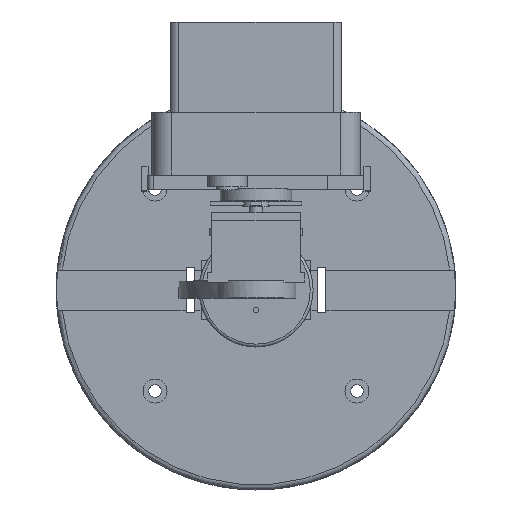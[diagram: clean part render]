
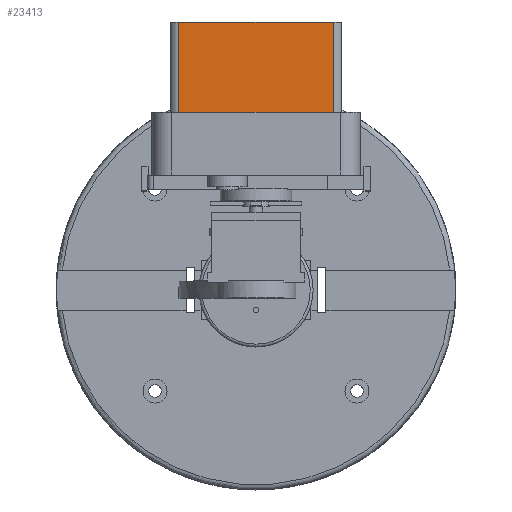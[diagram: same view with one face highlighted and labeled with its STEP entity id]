
A CAD part, top view. The second image highlights one B-rep face of the part: STEP entity #23413.
In plain terms, the highlighted planar face has unit normal (0, 0, 1).
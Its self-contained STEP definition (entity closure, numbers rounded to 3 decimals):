
#22783 = PLANE('',#22784);
#22784 = AXIS2_PLACEMENT_3D('',#22785,#22786,#22787);
#22785 = CARTESIAN_POINT('',(-30.,49.,90.));
#22786 = DIRECTION('',(0.,1.,0.));
#22787 = DIRECTION('',(0.,0.,1.));
#22839 = PLANE('',#22840);
#22840 = AXIS2_PLACEMENT_3D('',#22841,#22842,#22843);
#22841 = CARTESIAN_POINT('',(-30.,93.64,90.));
#22842 = DIRECTION('',(0.,1.,0.));
#22843 = DIRECTION('',(0.,0.,1.));
#22865 = CYLINDRICAL_SURFACE('',#22866,3.);
#22866 = AXIS2_PLACEMENT_3D('',#22867,#22868,#22869);
#22867 = CARTESIAN_POINT('',(-27.,49.,99.));
#22868 = DIRECTION('',(0.,1.,0.));
#22869 = DIRECTION('',(-1.,0.,0.));
#22938 = VERTEX_POINT('',#22939);
#22939 = CARTESIAN_POINT('',(-27.,49.,102.));
#22961 = EDGE_CURVE('',#22938,#22962,#22964,.T.);
#22962 = VERTEX_POINT('',#22963);
#22963 = CARTESIAN_POINT('',(27.,49.,102.));
#22964 = SURFACE_CURVE('',#22965,(#22969,#22976),.PCURVE_S1.);
#22965 = LINE('',#22966,#22967);
#22966 = CARTESIAN_POINT('',(-30.,49.,102.));
#22967 = VECTOR('',#22968,1.);
#22968 = DIRECTION('',(1.,0.,0.));
#22969 = PCURVE('',#22783,#22970);
#22970 = DEFINITIONAL_REPRESENTATION('',(#22971),#22975);
#22971 = LINE('',#22972,#22973);
#22972 = CARTESIAN_POINT('',(12.,0.));
#22973 = VECTOR('',#22974,1.);
#22974 = DIRECTION('',(0.,1.));
#22975 = ( GEOMETRIC_REPRESENTATION_CONTEXT(2) 
PARAMETRIC_REPRESENTATION_CONTEXT() REPRESENTATION_CONTEXT('2D SPACE',''
  ) );
#22976 = PCURVE('',#22977,#22982);
#22977 = PLANE('',#22978);
#22978 = AXIS2_PLACEMENT_3D('',#22979,#22980,#22981);
#22979 = CARTESIAN_POINT('',(-30.,49.,102.));
#22980 = DIRECTION('',(0.,0.,1.));
#22981 = DIRECTION('',(1.,0.,0.));
#22982 = DEFINITIONAL_REPRESENTATION('',(#22983),#22987);
#22983 = LINE('',#22984,#22985);
#22984 = CARTESIAN_POINT('',(0.,0.));
#22985 = VECTOR('',#22986,1.);
#22986 = DIRECTION('',(1.,0.));
#22987 = ( GEOMETRIC_REPRESENTATION_CONTEXT(2) 
PARAMETRIC_REPRESENTATION_CONTEXT() REPRESENTATION_CONTEXT('2D SPACE',''
  ) );
#23010 = CYLINDRICAL_SURFACE('',#23011,3.);
#23011 = AXIS2_PLACEMENT_3D('',#23012,#23013,#23014);
#23012 = CARTESIAN_POINT('',(27.,49.,99.));
#23013 = DIRECTION('',(0.,1.,0.));
#23014 = DIRECTION('',(1.,0.,-0.));
#23135 = EDGE_CURVE('',#22938,#23136,#23138,.T.);
#23136 = VERTEX_POINT('',#23137);
#23137 = CARTESIAN_POINT('',(-27.,93.64,102.));
#23138 = SURFACE_CURVE('',#23139,(#23143,#23150),.PCURVE_S1.);
#23139 = LINE('',#23140,#23141);
#23140 = CARTESIAN_POINT('',(-27.,49.,102.));
#23141 = VECTOR('',#23142,1.);
#23142 = DIRECTION('',(0.,1.,0.));
#23143 = PCURVE('',#22865,#23144);
#23144 = DEFINITIONAL_REPRESENTATION('',(#23145),#23149);
#23145 = LINE('',#23146,#23147);
#23146 = CARTESIAN_POINT('',(1.571,0.));
#23147 = VECTOR('',#23148,1.);
#23148 = DIRECTION('',(0.,1.));
#23149 = ( GEOMETRIC_REPRESENTATION_CONTEXT(2) 
PARAMETRIC_REPRESENTATION_CONTEXT() REPRESENTATION_CONTEXT('2D SPACE',''
  ) );
#23150 = PCURVE('',#22977,#23151);
#23151 = DEFINITIONAL_REPRESENTATION('',(#23152),#23156);
#23152 = LINE('',#23153,#23154);
#23153 = CARTESIAN_POINT('',(3.,0.));
#23154 = VECTOR('',#23155,1.);
#23155 = DIRECTION('',(0.,1.));
#23156 = ( GEOMETRIC_REPRESENTATION_CONTEXT(2) 
PARAMETRIC_REPRESENTATION_CONTEXT() REPRESENTATION_CONTEXT('2D SPACE',''
  ) );
#23210 = EDGE_CURVE('',#23136,#23211,#23213,.T.);
#23211 = VERTEX_POINT('',#23212);
#23212 = CARTESIAN_POINT('',(27.,93.64,102.));
#23213 = SURFACE_CURVE('',#23214,(#23218,#23225),.PCURVE_S1.);
#23214 = LINE('',#23215,#23216);
#23215 = CARTESIAN_POINT('',(-30.,93.64,102.));
#23216 = VECTOR('',#23217,1.);
#23217 = DIRECTION('',(1.,0.,0.));
#23218 = PCURVE('',#22839,#23219);
#23219 = DEFINITIONAL_REPRESENTATION('',(#23220),#23224);
#23220 = LINE('',#23221,#23222);
#23221 = CARTESIAN_POINT('',(12.,0.));
#23222 = VECTOR('',#23223,1.);
#23223 = DIRECTION('',(0.,1.));
#23224 = ( GEOMETRIC_REPRESENTATION_CONTEXT(2) 
PARAMETRIC_REPRESENTATION_CONTEXT() REPRESENTATION_CONTEXT('2D SPACE',''
  ) );
#23225 = PCURVE('',#22977,#23226);
#23226 = DEFINITIONAL_REPRESENTATION('',(#23227),#23231);
#23227 = LINE('',#23228,#23229);
#23228 = CARTESIAN_POINT('',(0.,44.64));
#23229 = VECTOR('',#23230,1.);
#23230 = DIRECTION('',(1.,0.));
#23231 = ( GEOMETRIC_REPRESENTATION_CONTEXT(2) 
PARAMETRIC_REPRESENTATION_CONTEXT() REPRESENTATION_CONTEXT('2D SPACE',''
  ) );
#23391 = EDGE_CURVE('',#22962,#23211,#23392,.T.);
#23392 = SURFACE_CURVE('',#23393,(#23397,#23404),.PCURVE_S1.);
#23393 = LINE('',#23394,#23395);
#23394 = CARTESIAN_POINT('',(27.,49.,102.));
#23395 = VECTOR('',#23396,1.);
#23396 = DIRECTION('',(0.,1.,0.));
#23397 = PCURVE('',#23010,#23398);
#23398 = DEFINITIONAL_REPRESENTATION('',(#23399),#23403);
#23399 = LINE('',#23400,#23401);
#23400 = CARTESIAN_POINT('',(-1.571,0.));
#23401 = VECTOR('',#23402,1.);
#23402 = DIRECTION('',(-0.,1.));
#23403 = ( GEOMETRIC_REPRESENTATION_CONTEXT(2) 
PARAMETRIC_REPRESENTATION_CONTEXT() REPRESENTATION_CONTEXT('2D SPACE',''
  ) );
#23404 = PCURVE('',#22977,#23405);
#23405 = DEFINITIONAL_REPRESENTATION('',(#23406),#23410);
#23406 = LINE('',#23407,#23408);
#23407 = CARTESIAN_POINT('',(57.,0.));
#23408 = VECTOR('',#23409,1.);
#23409 = DIRECTION('',(0.,1.));
#23410 = ( GEOMETRIC_REPRESENTATION_CONTEXT(2) 
PARAMETRIC_REPRESENTATION_CONTEXT() REPRESENTATION_CONTEXT('2D SPACE',''
  ) );
#23413 = ADVANCED_FACE('',(#23414),#22977,.T.);
#23414 = FACE_BOUND('',#23415,.T.);
#23415 = EDGE_LOOP('',(#23416,#23417,#23418,#23419));
#23416 = ORIENTED_EDGE('',*,*,#23210,.F.);
#23417 = ORIENTED_EDGE('',*,*,#23135,.F.);
#23418 = ORIENTED_EDGE('',*,*,#22961,.T.);
#23419 = ORIENTED_EDGE('',*,*,#23391,.T.);
